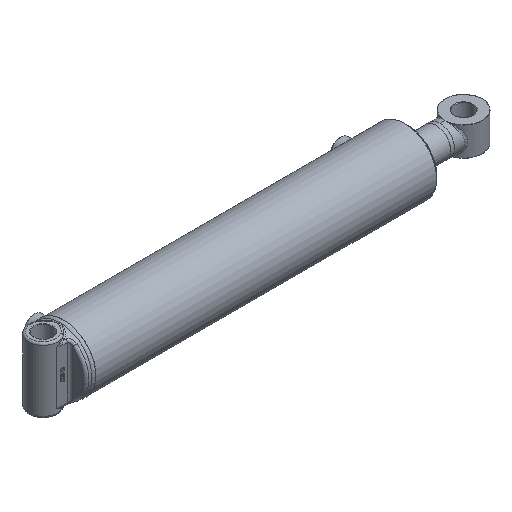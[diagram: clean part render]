
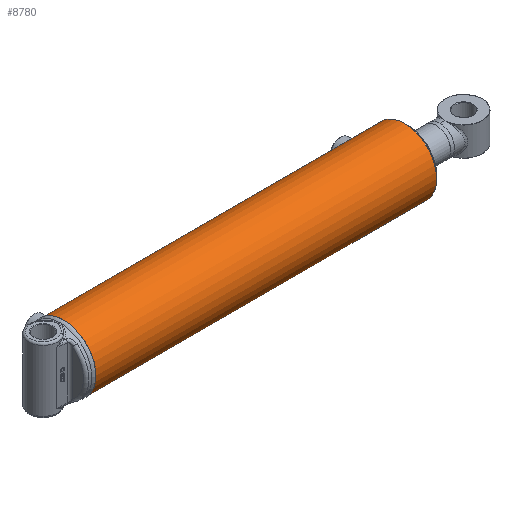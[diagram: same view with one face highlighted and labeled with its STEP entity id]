
A CAD part, isometric view. The second image highlights one B-rep face of the part: STEP entity #8780.
In plain terms, the highlighted cylindrical face has radius 56.356 mm (diameter 112.712 mm), a full revolution.
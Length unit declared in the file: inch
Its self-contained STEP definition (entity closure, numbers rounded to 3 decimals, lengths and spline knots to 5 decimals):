
#808=B_SPLINE_CURVE_WITH_KNOTS('',3,(#13133,#13134,#13135,#13136,#13137,
#13138,#13139,#13140,#13141,#13142),.UNSPECIFIED.,.F.,.F.,(4,2,2,2,4),(0.,
0.23942,0.47883,0.71824,0.95766),
 .UNSPECIFIED.);
#809=B_SPLINE_CURVE_WITH_KNOTS('',3,(#13143,#13144,#13145,#13146,#13147,
#13148,#13149,#13150,#13151,#13152,#13153,#13154,#13155,#13156,#13157,#13158,
#13159,#13160,#13161,#13162,#13163,#13164,#13165,#13166,#13167,#13168),
 .UNSPECIFIED.,.F.,.F.,(4,2,2,2,2,2,2,2,2,2,2,2,4),(0.95766,1.19707,
1.43649,1.6759,1.91532,2.15473,2.39415,
2.63356,2.87297,3.11239,3.3518,3.59122,
3.83063),.UNSPECIFIED.);
#810=B_SPLINE_CURVE_WITH_KNOTS('',3,(#13173,#13174,#13175,#13176,#13177,
#13178,#13179,#13180,#13181,#13182),.UNSPECIFIED.,.F.,.F.,(4,2,2,2,4),(0.,
0.23942,0.47883,0.71824,0.95766),
 .UNSPECIFIED.);
#811=B_SPLINE_CURVE_WITH_KNOTS('',3,(#13183,#13184,#13185,#13186,#13187,
#13188,#13189,#13190,#13191,#13192,#13193,#13194,#13195,#13196,#13197,#13198,
#13199,#13200,#13201,#13202,#13203,#13204,#13205,#13206,#13207,#13208),
 .UNSPECIFIED.,.F.,.F.,(4,2,2,2,2,2,2,2,2,2,2,2,4),(0.95766,1.19707,
1.43649,1.6759,1.91532,2.15473,2.39415,
2.63356,2.87297,3.11239,3.3518,3.59122,
3.83063),.UNSPECIFIED.);
#1096=FACE_BOUND('',#2595,.T.);
#1097=FACE_BOUND('',#2596,.T.);
#1352=LINE('',#13244,#1693);
#1693=VECTOR('',#10661,2.21875);
#2031=CYLINDRICAL_SURFACE('',#9525,2.21875);
#2119=FACE_OUTER_BOUND('',#2594,.T.);
#2594=EDGE_LOOP('',(#6139,#6140,#6141,#6142,#6143,#6144));
#2595=EDGE_LOOP('',(#6145,#6146));
#2596=EDGE_LOOP('',(#6147,#6148));
#3157=CIRCLE('',#9522,2.21875);
#3159=CIRCLE('',#9524,2.21875);
#3160=CIRCLE('',#9526,2.21875);
#3161=CIRCLE('',#9527,2.21875);
#3801=VERTEX_POINT('',#13130);
#3802=VERTEX_POINT('',#13132);
#3803=VERTEX_POINT('',#13170);
#3804=VERTEX_POINT('',#13172);
#3815=VERTEX_POINT('',#13237);
#3816=VERTEX_POINT('',#13238);
#3817=VERTEX_POINT('',#13243);
#3818=VERTEX_POINT('',#13245);
#4736=EDGE_CURVE('',#3802,#3801,#808,.T.);
#4737=EDGE_CURVE('',#3801,#3802,#809,.T.);
#4739=EDGE_CURVE('',#3804,#3803,#810,.T.);
#4740=EDGE_CURVE('',#3803,#3804,#811,.T.);
#4754=EDGE_CURVE('',#3815,#3816,#3157,.T.);
#4756=EDGE_CURVE('',#3816,#3815,#3159,.T.);
#4757=EDGE_CURVE('',#3815,#3817,#1352,.T.);
#4758=EDGE_CURVE('',#3818,#3817,#3160,.T.);
#4759=EDGE_CURVE('',#3817,#3818,#3161,.T.);
#6139=ORIENTED_EDGE('',*,*,#4754,.F.);
#6140=ORIENTED_EDGE('',*,*,#4757,.T.);
#6141=ORIENTED_EDGE('',*,*,#4758,.F.);
#6142=ORIENTED_EDGE('',*,*,#4759,.F.);
#6143=ORIENTED_EDGE('',*,*,#4757,.F.);
#6144=ORIENTED_EDGE('',*,*,#4756,.F.);
#6145=ORIENTED_EDGE('',*,*,#4736,.T.);
#6146=ORIENTED_EDGE('',*,*,#4737,.T.);
#6147=ORIENTED_EDGE('',*,*,#4739,.T.);
#6148=ORIENTED_EDGE('',*,*,#4740,.T.);
#8780=ADVANCED_FACE('',(#2119,#1096,#1097),#2031,.T.);
#9522=AXIS2_PLACEMENT_3D('',#13239,#10653,#10654);
#9524=AXIS2_PLACEMENT_3D('',#13241,#10657,#10658);
#9525=AXIS2_PLACEMENT_3D('',#13242,#10659,#10660);
#9526=AXIS2_PLACEMENT_3D('',#13246,#10662,#10663);
#9527=AXIS2_PLACEMENT_3D('',#13247,#10664,#10665);
#10653=DIRECTION('center_axis',(1.,0.,0.));
#10654=DIRECTION('ref_axis',(0.,-1.,0.));
#10657=DIRECTION('center_axis',(1.,0.,0.));
#10658=DIRECTION('ref_axis',(0.,-1.,0.));
#10659=DIRECTION('center_axis',(1.,0.,0.));
#10660=DIRECTION('ref_axis',(0.,-1.,0.));
#10661=DIRECTION('',(-1.,0.,0.));
#10662=DIRECTION('center_axis',(-1.,0.,0.));
#10663=DIRECTION('ref_axis',(0.,-1.,0.));
#10664=DIRECTION('center_axis',(-1.,0.,0.));
#10665=DIRECTION('ref_axis',(0.,-1.,0.));
#13130=CARTESIAN_POINT('',(0.75,0.,2.21875));
#13132=CARTESIAN_POINT('',(1.,-0.25,2.20462));
#13133=CARTESIAN_POINT('Ctrl Pts',(1.,-0.25,2.20462));
#13134=CARTESIAN_POINT('Ctrl Pts',(0.96858,-0.25,2.20462));
#13135=CARTESIAN_POINT('Ctrl Pts',(0.93509,-0.24372,
2.20536));
#13136=CARTESIAN_POINT('Ctrl Pts',(0.8735,-0.21819,
2.20803));
#13137=CARTESIAN_POINT('Ctrl Pts',(0.8454,-0.19896,
2.20992));
#13138=CARTESIAN_POINT('Ctrl Pts',(0.80104,-0.1546,
2.21347));
#13139=CARTESIAN_POINT('Ctrl Pts',(0.78181,-0.1265,
2.21536));
#13140=CARTESIAN_POINT('Ctrl Pts',(0.75628,-0.06491,
2.21801));
#13141=CARTESIAN_POINT('Ctrl Pts',(0.75,-0.03142,2.21875));
#13142=CARTESIAN_POINT('Ctrl Pts',(0.75,0.,2.21875));
#13143=CARTESIAN_POINT('Ctrl Pts',(0.75,0.,2.21875));
#13144=CARTESIAN_POINT('Ctrl Pts',(0.75,0.03142,2.21875));
#13145=CARTESIAN_POINT('Ctrl Pts',(0.75628,0.06491,
2.21801));
#13146=CARTESIAN_POINT('Ctrl Pts',(0.78181,0.1265,
2.21536));
#13147=CARTESIAN_POINT('Ctrl Pts',(0.80104,0.1546,
2.21347));
#13148=CARTESIAN_POINT('Ctrl Pts',(0.8454,0.19896,
2.20992));
#13149=CARTESIAN_POINT('Ctrl Pts',(0.8735,0.21819,2.20803));
#13150=CARTESIAN_POINT('Ctrl Pts',(0.93509,0.24372,
2.20536));
#13151=CARTESIAN_POINT('Ctrl Pts',(0.96858,0.25,2.20462));
#13152=CARTESIAN_POINT('Ctrl Pts',(1.03142,0.25,2.20462));
#13153=CARTESIAN_POINT('Ctrl Pts',(1.06491,0.24372,2.20536));
#13154=CARTESIAN_POINT('Ctrl Pts',(1.1265,0.21819,2.20803));
#13155=CARTESIAN_POINT('Ctrl Pts',(1.1546,0.19896,2.20992));
#13156=CARTESIAN_POINT('Ctrl Pts',(1.19896,0.1546,2.21347));
#13157=CARTESIAN_POINT('Ctrl Pts',(1.21819,0.1265,2.21536));
#13158=CARTESIAN_POINT('Ctrl Pts',(1.24372,0.06491,
2.21801));
#13159=CARTESIAN_POINT('Ctrl Pts',(1.25,0.03142,2.21875));
#13160=CARTESIAN_POINT('Ctrl Pts',(1.25,-0.03142,2.21875));
#13161=CARTESIAN_POINT('Ctrl Pts',(1.24372,-0.06491,
2.21801));
#13162=CARTESIAN_POINT('Ctrl Pts',(1.21819,-0.1265,
2.21536));
#13163=CARTESIAN_POINT('Ctrl Pts',(1.19896,-0.1546,
2.21347));
#13164=CARTESIAN_POINT('Ctrl Pts',(1.1546,-0.19896,
2.20992));
#13165=CARTESIAN_POINT('Ctrl Pts',(1.1265,-0.21819,2.20803));
#13166=CARTESIAN_POINT('Ctrl Pts',(1.06491,-0.24372,2.20536));
#13167=CARTESIAN_POINT('Ctrl Pts',(1.03142,-0.25,2.20462));
#13168=CARTESIAN_POINT('Ctrl Pts',(1.,-0.25,2.20462));
#13170=CARTESIAN_POINT('',(21.87,0.,2.21875));
#13172=CARTESIAN_POINT('',(22.12,-0.25,2.20462));
#13173=CARTESIAN_POINT('Ctrl Pts',(22.12,-0.25,2.20462));
#13174=CARTESIAN_POINT('Ctrl Pts',(22.08858,-0.25,
2.20462));
#13175=CARTESIAN_POINT('Ctrl Pts',(22.05509,-0.24372,2.20536));
#13176=CARTESIAN_POINT('Ctrl Pts',(21.9935,-0.21819,
2.20803));
#13177=CARTESIAN_POINT('Ctrl Pts',(21.9654,-0.19896,2.20992));
#13178=CARTESIAN_POINT('Ctrl Pts',(21.92104,-0.1546,
2.21347));
#13179=CARTESIAN_POINT('Ctrl Pts',(21.90181,-0.1265,
2.21536));
#13180=CARTESIAN_POINT('Ctrl Pts',(21.87628,-0.06491,
2.21801));
#13181=CARTESIAN_POINT('Ctrl Pts',(21.87,-0.03142,2.21875));
#13182=CARTESIAN_POINT('Ctrl Pts',(21.87,0.,2.21875));
#13183=CARTESIAN_POINT('Ctrl Pts',(21.87,0.,2.21875));
#13184=CARTESIAN_POINT('Ctrl Pts',(21.87,0.03142,2.21875));
#13185=CARTESIAN_POINT('Ctrl Pts',(21.87628,0.06491,
2.21801));
#13186=CARTESIAN_POINT('Ctrl Pts',(21.90181,0.1265,2.21536));
#13187=CARTESIAN_POINT('Ctrl Pts',(21.92104,0.1546,2.21347));
#13188=CARTESIAN_POINT('Ctrl Pts',(21.9654,0.19896,2.20992));
#13189=CARTESIAN_POINT('Ctrl Pts',(21.9935,0.21819,2.20803));
#13190=CARTESIAN_POINT('Ctrl Pts',(22.05509,0.24372,2.20536));
#13191=CARTESIAN_POINT('Ctrl Pts',(22.08858,0.25,2.20462));
#13192=CARTESIAN_POINT('Ctrl Pts',(22.15142,0.25,2.20462));
#13193=CARTESIAN_POINT('Ctrl Pts',(22.18491,0.24372,2.20536));
#13194=CARTESIAN_POINT('Ctrl Pts',(22.2465,0.21819,2.20803));
#13195=CARTESIAN_POINT('Ctrl Pts',(22.2746,0.19896,2.20992));
#13196=CARTESIAN_POINT('Ctrl Pts',(22.31896,0.1546,2.21347));
#13197=CARTESIAN_POINT('Ctrl Pts',(22.33819,0.1265,2.21536));
#13198=CARTESIAN_POINT('Ctrl Pts',(22.36372,0.06491,
2.21801));
#13199=CARTESIAN_POINT('Ctrl Pts',(22.37,0.03142,2.21875));
#13200=CARTESIAN_POINT('Ctrl Pts',(22.37,-0.03142,2.21875));
#13201=CARTESIAN_POINT('Ctrl Pts',(22.36372,-0.06491,
2.21801));
#13202=CARTESIAN_POINT('Ctrl Pts',(22.33819,-0.1265,
2.21536));
#13203=CARTESIAN_POINT('Ctrl Pts',(22.31896,-0.1546,
2.21347));
#13204=CARTESIAN_POINT('Ctrl Pts',(22.2746,-0.19896,2.20992));
#13205=CARTESIAN_POINT('Ctrl Pts',(22.2465,-0.21819,
2.20803));
#13206=CARTESIAN_POINT('Ctrl Pts',(22.18491,-0.24372,2.20536));
#13207=CARTESIAN_POINT('Ctrl Pts',(22.15142,-0.25,
2.20462));
#13208=CARTESIAN_POINT('Ctrl Pts',(22.12,-0.25,2.20462));
#13237=CARTESIAN_POINT('',(23.61,2.21875,0.));
#13238=CARTESIAN_POINT('',(23.61,0.,-2.21875));
#13239=CARTESIAN_POINT('Origin',(23.61,0.,0.));
#13241=CARTESIAN_POINT('Origin',(23.61,0.,0.));
#13242=CARTESIAN_POINT('Origin',(0.,0.,0.));
#13243=CARTESIAN_POINT('',(0.11186,2.21875,0.));
#13244=CARTESIAN_POINT('',(0.,2.21875,0.));
#13245=CARTESIAN_POINT('',(0.11186,0.,2.21875));
#13246=CARTESIAN_POINT('Origin',(0.11186,0.,0.));
#13247=CARTESIAN_POINT('Origin',(0.11186,0.,0.));
